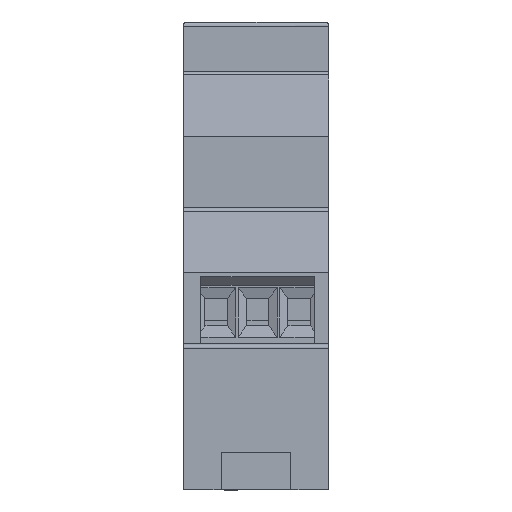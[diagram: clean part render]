
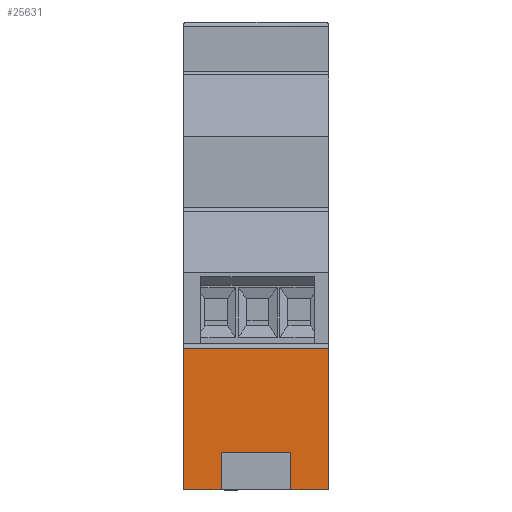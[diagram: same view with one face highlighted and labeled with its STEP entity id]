
A CAD part, front view. The second image highlights one B-rep face of the part: STEP entity #25631.
In plain terms, the highlighted planar face has unit normal (0, -1, 0).
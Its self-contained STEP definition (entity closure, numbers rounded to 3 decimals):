
#88 = LINE ( 'NONE', #13634, #14742 ) ;
#692 = LINE ( 'NONE', #39202, #33081 ) ;
#696 = VECTOR ( 'NONE', #9666, 1000. ) ;
#1426 = LINE ( 'NONE', #8096, #8376 ) ;
#1931 = VERTEX_POINT ( 'NONE', #26535 ) ;
#2597 = EDGE_CURVE ( 'NONE', #41498, #29522, #31579, .T. ) ;
#4481 = EDGE_CURVE ( 'NONE', #26634, #11676, #692, .T. ) ;
#4942 = CARTESIAN_POINT ( 'NONE',  ( 0., 4., 17.1 ) ) ;
#5142 = CARTESIAN_POINT ( 'NONE',  ( 11., 4., 3.5 ) ) ;
#5754 = PLANE ( 'NONE',  #31860 ) ;
#5796 = CARTESIAN_POINT ( 'NONE',  ( 11., 4., 0. ) ) ;
#6463 = CARTESIAN_POINT ( 'NONE',  ( 17.5, 4., 0. ) ) ;
#7215 = CARTESIAN_POINT ( 'NONE',  ( 12.95, 4., 0. ) ) ;
#7353 = DIRECTION ( 'NONE',  ( 0., 0., -1. ) ) ;
#8096 = CARTESIAN_POINT ( 'NONE',  ( 6.5, 4., 17.1 ) ) ;
#8148 = DIRECTION ( 'NONE',  ( 1., 0., 0. ) ) ;
#8295 = CARTESIAN_POINT ( 'NONE',  ( 17.5, 4., 17.1 ) ) ;
#8376 = VECTOR ( 'NONE', #36891, 1000. ) ;
#9115 = ORIENTED_EDGE ( 'NONE', *, *, #29502, .T. ) ;
#9666 = DIRECTION ( 'NONE',  ( 1., 0., 0. ) ) ;
#9953 = CARTESIAN_POINT ( 'NONE',  ( 4.55, 4., 0. ) ) ;
#11676 = VERTEX_POINT ( 'NONE', #34744 ) ;
#12449 = CARTESIAN_POINT ( 'NONE',  ( 17.5, 4., 0. ) ) ;
#12518 = VECTOR ( 'NONE', #14721, 1000. ) ;
#13634 = CARTESIAN_POINT ( 'NONE',  ( 17.5, 4., 0. ) ) ;
#14534 = VECTOR ( 'NONE', #19707, 1000. ) ;
#14721 = DIRECTION ( 'NONE',  ( -1., 0., 0. ) ) ;
#14742 = VECTOR ( 'NONE', #26321, 1000. ) ;
#15916 = EDGE_CURVE ( 'NONE', #41578, #1931, #21989, .T. ) ;
#16206 = CARTESIAN_POINT ( 'NONE',  ( 11., 4., 17.1 ) ) ;
#16290 = ORIENTED_EDGE ( 'NONE', *, *, #2597, .T. ) ;
#17109 = ORIENTED_EDGE ( 'NONE', *, *, #40592, .T. ) ;
#17396 = CARTESIAN_POINT ( 'NONE',  ( 6.5, 4., 0. ) ) ;
#17524 = ORIENTED_EDGE ( 'NONE', *, *, #22125, .T. ) ;
#17862 = VERTEX_POINT ( 'NONE', #29094 ) ;
#18199 = LINE ( 'NONE', #35017, #31946 ) ;
#18378 = CARTESIAN_POINT ( 'NONE',  ( 4.55, 4., 17.1 ) ) ;
#18838 = VECTOR ( 'NONE', #29323, 1000. ) ;
#18973 = ORIENTED_EDGE ( 'NONE', *, *, #34388, .T. ) ;
#19707 = DIRECTION ( 'NONE',  ( 1., 0., 0. ) ) ;
#21036 = EDGE_CURVE ( 'NONE', #32562, #17862, #25966, .T. ) ;
#21989 = LINE ( 'NONE', #8295, #27387 ) ;
#22125 = EDGE_CURVE ( 'NONE', #22469, #26634, #40595, .T. ) ;
#22232 = FACE_OUTER_BOUND ( 'NONE', #31574, .T. ) ;
#22469 = VERTEX_POINT ( 'NONE', #9953 ) ;
#22894 = CARTESIAN_POINT ( 'NONE',  ( 0., 4., 17.1 ) ) ;
#23112 = VERTEX_POINT ( 'NONE', #42237 ) ;
#24553 = CARTESIAN_POINT ( 'NONE',  ( 17.5, 4., 17.1 ) ) ;
#24884 = VECTOR ( 'NONE', #7353, 1000. ) ;
#25557 = ORIENTED_EDGE ( 'NONE', *, *, #21036, .T. ) ;
#25631 = ADVANCED_FACE ( 'NONE', ( #22232 ), #5754, .T. ) ;
#25966 = LINE ( 'NONE', #39106, #696 ) ;
#26093 = VECTOR ( 'NONE', #28329, 1000. ) ;
#26321 = DIRECTION ( 'NONE',  ( 1., 0., 0. ) ) ;
#26535 = CARTESIAN_POINT ( 'NONE',  ( 17.5, 4., 17.1 ) ) ;
#26634 = VERTEX_POINT ( 'NONE', #41065 ) ;
#27387 = VECTOR ( 'NONE', #31287, 1000. ) ;
#27828 = LINE ( 'NONE', #24553, #12518 ) ;
#27868 = DIRECTION ( 'NONE',  ( 0., 0., 1. ) ) ;
#28329 = DIRECTION ( 'NONE',  ( 0., 0., 1. ) ) ;
#28692 = ORIENTED_EDGE ( 'NONE', *, *, #32746, .T. ) ;
#29094 = CARTESIAN_POINT ( 'NONE',  ( 12.95, 4., 3.5 ) ) ;
#29323 = DIRECTION ( 'NONE',  ( 0., 0., 1. ) ) ;
#29502 = EDGE_CURVE ( 'NONE', #17862, #30894, #18199, .T. ) ;
#29522 = VERTEX_POINT ( 'NONE', #5796 ) ;
#30151 = DIRECTION ( 'NONE',  ( 1., 0., 0. ) ) ;
#30894 = VERTEX_POINT ( 'NONE', #7215 ) ;
#30946 = LINE ( 'NONE', #4942, #24884 ) ;
#31287 = DIRECTION ( 'NONE',  ( 0., 0., 1. ) ) ;
#31574 = EDGE_LOOP ( 'NONE', ( #16290, #18973, #25557, #9115, #36278, #37497, #31735, #17109, #36681, #17524, #41425, #28692 ) ) ;
#31579 = LINE ( 'NONE', #12449, #37578 ) ;
#31735 = ORIENTED_EDGE ( 'NONE', *, *, #40839, .T. ) ;
#31860 = AXIS2_PLACEMENT_3D ( 'NONE', #38415, #34764, #27868 ) ;
#31946 = VECTOR ( 'NONE', #32253, 1000. ) ;
#32253 = DIRECTION ( 'NONE',  ( 0., 0., -1. ) ) ;
#32308 = EDGE_CURVE ( 'NONE', #23112, #22469, #36724, .T. ) ;
#32562 = VERTEX_POINT ( 'NONE', #5142 ) ;
#32746 = EDGE_CURVE ( 'NONE', #11676, #41498, #1426, .T. ) ;
#33081 = VECTOR ( 'NONE', #30151, 1000. ) ;
#33136 = CARTESIAN_POINT ( 'NONE',  ( 17.5, 4., 0. ) ) ;
#33224 = LINE ( 'NONE', #16206, #18838 ) ;
#34388 = EDGE_CURVE ( 'NONE', #29522, #32562, #33224, .T. ) ;
#34744 = CARTESIAN_POINT ( 'NONE',  ( 6.5, 4., 3.5 ) ) ;
#34764 = DIRECTION ( 'NONE',  ( 0., -1., 0. ) ) ;
#35017 = CARTESIAN_POINT ( 'NONE',  ( 12.95, 4., 17.1 ) ) ;
#35199 = EDGE_CURVE ( 'NONE', #30894, #41578, #88, .T. ) ;
#36278 = ORIENTED_EDGE ( 'NONE', *, *, #35199, .T. ) ;
#36681 = ORIENTED_EDGE ( 'NONE', *, *, #32308, .T. ) ;
#36724 = LINE ( 'NONE', #33136, #14534 ) ;
#36891 = DIRECTION ( 'NONE',  ( 0., 0., -1. ) ) ;
#37497 = ORIENTED_EDGE ( 'NONE', *, *, #15916, .T. ) ;
#37578 = VECTOR ( 'NONE', #8148, 1000. ) ;
#38415 = CARTESIAN_POINT ( 'NONE',  ( 17.5, 4., 17.1 ) ) ;
#38621 = VERTEX_POINT ( 'NONE', #22894 ) ;
#39106 = CARTESIAN_POINT ( 'NONE',  ( 17.5, 4., 3.5 ) ) ;
#39202 = CARTESIAN_POINT ( 'NONE',  ( 17.5, 4., 3.5 ) ) ;
#40592 = EDGE_CURVE ( 'NONE', #38621, #23112, #30946, .T. ) ;
#40595 = LINE ( 'NONE', #18378, #26093 ) ;
#40839 = EDGE_CURVE ( 'NONE', #1931, #38621, #27828, .T. ) ;
#41065 = CARTESIAN_POINT ( 'NONE',  ( 4.55, 4., 3.5 ) ) ;
#41425 = ORIENTED_EDGE ( 'NONE', *, *, #4481, .T. ) ;
#41498 = VERTEX_POINT ( 'NONE', #17396 ) ;
#41578 = VERTEX_POINT ( 'NONE', #6463 ) ;
#42237 = CARTESIAN_POINT ( 'NONE',  ( 0., 4., 0. ) ) ;
